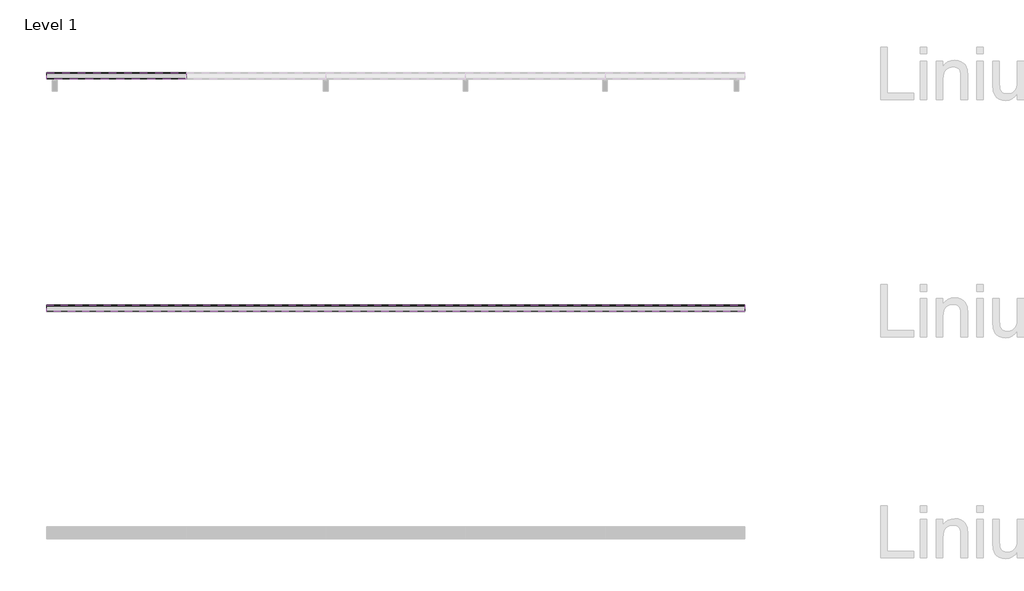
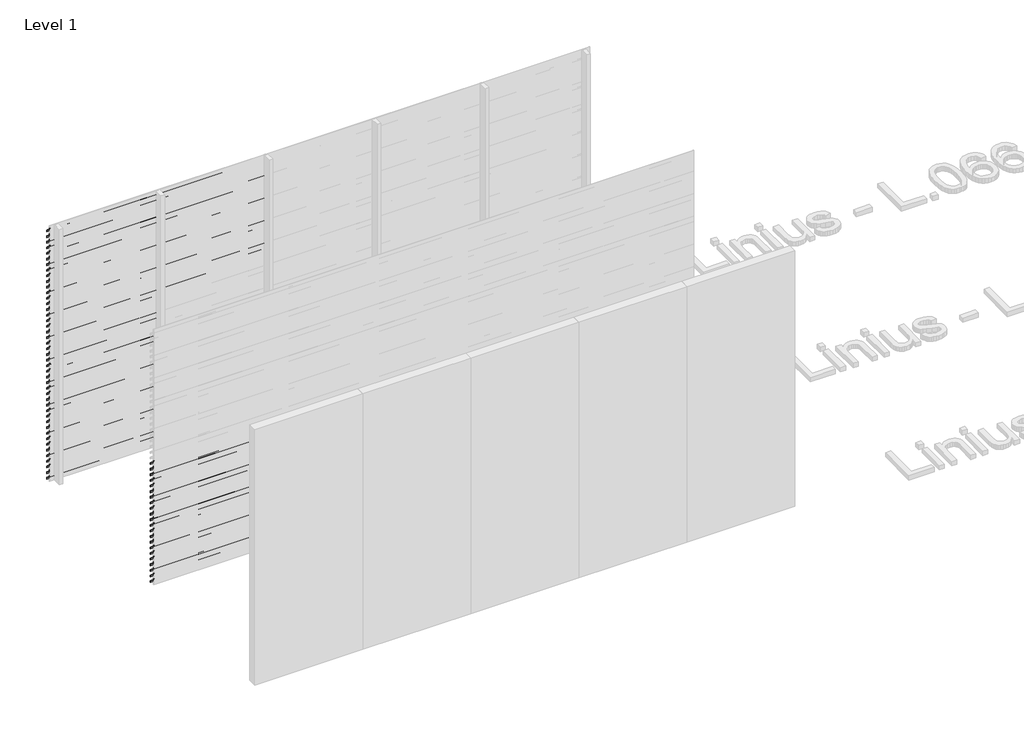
# One storey, part 37 of 540: 85 proxies.
"""IFC4 building model written with IfcOpenShell, lengths in millimetres."""

from ifc_helpers import new_model, si_unit, frame, origin, place, context, project, spatial, polyline, outline, extrude, element, save

model = new_model("IFC4")

# Units and contexts
model_context = context("Model", 3, world=origin())
ifc_project = project(units=[si_unit("LENGTHUNIT", "METRE", prefix="MILLI")], contexts=[model_context])

# Site, building, storey
site = spatial("IfcSite", under=ifc_project)
building = spatial("IfcBuilding", under=site)
storey = spatial("IfcBuildingStorey", under=building, Name="Level 1", Elevation=0.0)

# Proxies
placement = place(None, origin())
element("IfcBuildingElementProxy", 1, Name="Wall Sweeps", at=placement, inside=storey, context=model_context, shape_type="SweptSolid", body=[
    extrude(outline(polyline([(29081.0540136, 2913.5), (29081.0540136, 2893.5), (29079.8040136, 2894.2216933), (29079.8040136, 2912.7872415), (29026.0540136, 2950.3158044), (29026.0540136, 2970.0), (29027.3040136, 2970.0), (29027.3040136, 2951.0285629), (29081.0540136, 2913.5)])), frame((466.6208097, 0.0, 0.0), z_axis=(1.0, 0.0, 0.0), x_axis=(0.0, 1.0, 0.0)), (0.0, 0.0, 1.0), 1200.0000002),
])
element("IfcBuildingElementProxy", 2, Name="Wall Sweeps", at=placement, inside=storey, context=model_context, shape_type="SweptSolid", body=[
    extrude(outline(polyline([(29081.0540136, 2847.5), (29081.0540136, 2827.5), (29079.8040136, 2828.2216933), (29079.8040136, 2846.7872415), (29026.0540136, 2884.3158044), (29026.0540136, 2904.0), (29027.3040136, 2904.0), (29027.3040136, 2885.0285629), (29081.0540136, 2847.5)])), frame((466.6208097, 0.0, 0.0), z_axis=(1.0, 0.0, 0.0), x_axis=(0.0, 1.0, 0.0)), (0.0, 0.0, 1.0), 1200.0000002),
])
element("IfcBuildingElementProxy", 3, Name="Wall Sweeps", at=placement, inside=storey, context=model_context, shape_type="SweptSolid", body=[
    extrude(outline(polyline([(29081.0540136, 2781.5), (29081.0540136, 2761.5), (29079.8040136, 2762.2216933), (29079.8040136, 2780.7872415), (29026.0540136, 2818.3158044), (29026.0540136, 2838.0), (29027.3040136, 2838.0), (29027.3040136, 2819.0285629), (29081.0540136, 2781.5)])), frame((466.6208097, 0.0, 0.0), z_axis=(1.0, 0.0, 0.0), x_axis=(0.0, 1.0, 0.0)), (0.0, 0.0, 1.0), 1200.0000002),
])
element("IfcBuildingElementProxy", 4, Name="Wall Sweeps", at=placement, inside=storey, context=model_context, shape_type="SweptSolid", body=[
    extrude(outline(polyline([(29081.0540136, 2715.5), (29081.0540136, 2695.5), (29079.8040136, 2696.2216933), (29079.8040136, 2714.7872415), (29026.0540136, 2752.3158044), (29026.0540136, 2772.0), (29027.3040136, 2772.0), (29027.3040136, 2753.0285629), (29081.0540136, 2715.5)])), frame((466.6208097, 0.0, 0.0), z_axis=(1.0, 0.0, 0.0), x_axis=(0.0, 1.0, 0.0)), (0.0, 0.0, 1.0), 1200.0000002),
])
element("IfcBuildingElementProxy", 5, Name="Wall Sweeps", at=placement, inside=storey, context=model_context, shape_type="SweptSolid", body=[
    extrude(outline(polyline([(29081.0540136, 2649.5), (29081.0540136, 2629.5), (29079.8040136, 2630.2216933), (29079.8040136, 2648.7872415), (29026.0540136, 2686.3158044), (29026.0540136, 2706.0), (29027.3040136, 2706.0), (29027.3040136, 2687.0285629), (29081.0540136, 2649.5)])), frame((466.6208097, 0.0, 0.0), z_axis=(1.0, 0.0, 0.0), x_axis=(0.0, 1.0, 0.0)), (0.0, 0.0, 1.0), 1200.0000002),
])
element("IfcBuildingElementProxy", 6, Name="Wall Sweeps", at=placement, inside=storey, context=model_context, shape_type="SweptSolid", body=[
    extrude(outline(polyline([(29081.0540136, 2583.5), (29081.0540136, 2563.5), (29079.8040136, 2564.2216933), (29079.8040136, 2582.7872415), (29026.0540136, 2620.3158044), (29026.0540136, 2640.0), (29027.3040136, 2640.0), (29027.3040136, 2621.0285629), (29081.0540136, 2583.5)])), frame((466.6208097, 0.0, 0.0), z_axis=(1.0, 0.0, 0.0), x_axis=(0.0, 1.0, 0.0)), (0.0, 0.0, 1.0), 1200.0000002),
])
element("IfcBuildingElementProxy", 7, Name="Wall Sweeps", at=placement, inside=storey, context=model_context, shape_type="SweptSolid", body=[
    extrude(outline(polyline([(29081.0540136, 2517.5), (29081.0540136, 2497.5), (29079.8040136, 2498.2216933), (29079.8040136, 2516.7872415), (29026.0540136, 2554.3158044), (29026.0540136, 2574.0), (29027.3040136, 2574.0), (29027.3040136, 2555.0285629), (29081.0540136, 2517.5)])), frame((466.6208097, 0.0, 0.0), z_axis=(1.0, 0.0, 0.0), x_axis=(0.0, 1.0, 0.0)), (0.0, 0.0, 1.0), 1200.0000002),
])
element("IfcBuildingElementProxy", 8, Name="Wall Sweeps", at=placement, inside=storey, context=model_context, shape_type="SweptSolid", body=[
    extrude(outline(polyline([(29081.0540136, 2451.5), (29081.0540136, 2431.5), (29079.8040136, 2432.2216933), (29079.8040136, 2450.7872415), (29026.0540136, 2488.3158044), (29026.0540136, 2508.0), (29027.3040136, 2508.0), (29027.3040136, 2489.0285629), (29081.0540136, 2451.5)])), frame((466.6208097, 0.0, 0.0), z_axis=(1.0, 0.0, 0.0), x_axis=(0.0, 1.0, 0.0)), (0.0, 0.0, 1.0), 1200.0000002),
])
element("IfcBuildingElementProxy", 9, Name="Wall Sweeps", at=placement, inside=storey, context=model_context, shape_type="SweptSolid", body=[
    extrude(outline(polyline([(29081.0540136, 2385.5), (29081.0540136, 2365.5), (29079.8040136, 2366.2216933), (29079.8040136, 2384.7872415), (29026.0540136, 2422.3158044), (29026.0540136, 2442.0), (29027.3040136, 2442.0), (29027.3040136, 2423.0285629), (29081.0540136, 2385.5)])), frame((466.6208097, 0.0, 0.0), z_axis=(1.0, 0.0, 0.0), x_axis=(0.0, 1.0, 0.0)), (0.0, 0.0, 1.0), 1200.0000002),
])
element("IfcBuildingElementProxy", 10, Name="Wall Sweeps", at=placement, inside=storey, context=model_context, shape_type="SweptSolid", body=[
    extrude(outline(polyline([(29081.0540136, 2319.5), (29081.0540136, 2299.5), (29079.8040136, 2300.2216933), (29079.8040136, 2318.7872415), (29026.0540136, 2356.3158044), (29026.0540136, 2376.0), (29027.3040136, 2376.0), (29027.3040136, 2357.0285629), (29081.0540136, 2319.5)])), frame((466.6208097, 0.0, 0.0), z_axis=(1.0, 0.0, 0.0), x_axis=(0.0, 1.0, 0.0)), (0.0, 0.0, 1.0), 1200.0000002),
])
element("IfcBuildingElementProxy", 11, Name="Wall Sweeps", at=placement, inside=storey, context=model_context, shape_type="SweptSolid", body=[
    extrude(outline(polyline([(29081.0540136, 2253.5), (29081.0540136, 2233.5), (29079.8040136, 2234.2216933), (29079.8040136, 2252.7872415), (29026.0540136, 2290.3158044), (29026.0540136, 2310.0), (29027.3040136, 2310.0), (29027.3040136, 2291.0285629), (29081.0540136, 2253.5)])), frame((466.6208097, 0.0, 0.0), z_axis=(1.0, 0.0, 0.0), x_axis=(0.0, 1.0, 0.0)), (0.0, 0.0, 1.0), 1200.0000002),
])
element("IfcBuildingElementProxy", 12, Name="Wall Sweeps", at=placement, inside=storey, context=model_context, shape_type="SweptSolid", body=[
    extrude(outline(polyline([(29081.0540136, 2187.5), (29081.0540136, 2167.5), (29079.8040136, 2168.2216933), (29079.8040136, 2186.7872415), (29026.0540136, 2224.3158044), (29026.0540136, 2244.0), (29027.3040136, 2244.0), (29027.3040136, 2225.0285629), (29081.0540136, 2187.5)])), frame((466.6208097, 0.0, 0.0), z_axis=(1.0, 0.0, 0.0), x_axis=(0.0, 1.0, 0.0)), (0.0, 0.0, 1.0), 1200.0000002),
])
element("IfcBuildingElementProxy", 13, Name="Wall Sweeps", at=placement, inside=storey, context=model_context, shape_type="SweptSolid", body=[
    extrude(outline(polyline([(29081.0540136, 2121.5), (29081.0540136, 2101.5), (29079.8040136, 2102.2216933), (29079.8040136, 2120.7872415), (29026.0540136, 2158.3158044), (29026.0540136, 2178.0), (29027.3040136, 2178.0), (29027.3040136, 2159.0285629), (29081.0540136, 2121.5)])), frame((466.6208097, 0.0, 0.0), z_axis=(1.0, 0.0, 0.0), x_axis=(0.0, 1.0, 0.0)), (0.0, 0.0, 1.0), 1200.0000002),
])
element("IfcBuildingElementProxy", 14, Name="Wall Sweeps", at=placement, inside=storey, context=model_context, shape_type="SweptSolid", body=[
    extrude(outline(polyline([(29081.0540136, 2055.5), (29081.0540136, 2035.5), (29079.8040136, 2036.2216933), (29079.8040136, 2054.7872415), (29026.0540136, 2092.3158044), (29026.0540136, 2112.0), (29027.3040136, 2112.0), (29027.3040136, 2093.0285629), (29081.0540136, 2055.5)])), frame((466.6208097, 0.0, 0.0), z_axis=(1.0, 0.0, 0.0), x_axis=(0.0, 1.0, 0.0)), (0.0, 0.0, 1.0), 1200.0000002),
])
element("IfcBuildingElementProxy", 15, Name="Wall Sweeps", at=placement, inside=storey, context=model_context, shape_type="SweptSolid", body=[
    extrude(outline(polyline([(29081.0540136, 1989.5), (29081.0540136, 1969.5), (29079.8040136, 1970.2216933), (29079.8040136, 1988.7872415), (29026.0540136, 2026.3158044), (29026.0540136, 2046.0), (29027.3040136, 2046.0), (29027.3040136, 2027.0285629), (29081.0540136, 1989.5)])), frame((466.6208097, 0.0, 0.0), z_axis=(1.0, 0.0, 0.0), x_axis=(0.0, 1.0, 0.0)), (0.0, 0.0, 1.0), 1200.0000002),
])
element("IfcBuildingElementProxy", 16, Name="Wall Sweeps", at=placement, inside=storey, context=model_context, shape_type="SweptSolid", body=[
    extrude(outline(polyline([(29081.0540136, 1923.5), (29081.0540136, 1903.5), (29079.8040136, 1904.2216933), (29079.8040136, 1922.7872415), (29026.0540136, 1960.3158044), (29026.0540136, 1980.0), (29027.3040136, 1980.0), (29027.3040136, 1961.0285629), (29081.0540136, 1923.5)])), frame((466.6208097, 0.0, 0.0), z_axis=(1.0, 0.0, 0.0), x_axis=(0.0, 1.0, 0.0)), (0.0, 0.0, 1.0), 1200.0000002),
])
element("IfcBuildingElementProxy", 17, Name="Wall Sweeps", at=placement, inside=storey, context=model_context, shape_type="SweptSolid", body=[
    extrude(outline(polyline([(29081.0540136, 1857.5), (29081.0540136, 1837.5), (29079.8040136, 1838.2216933), (29079.8040136, 1856.7872415), (29026.0540136, 1894.3158044), (29026.0540136, 1914.0), (29027.3040136, 1914.0), (29027.3040136, 1895.0285629), (29081.0540136, 1857.5)])), frame((466.6208097, 0.0, 0.0), z_axis=(1.0, 0.0, 0.0), x_axis=(0.0, 1.0, 0.0)), (0.0, 0.0, 1.0), 1200.0000002),
])
element("IfcBuildingElementProxy", 18, Name="Wall Sweeps", at=placement, inside=storey, context=model_context, shape_type="SweptSolid", body=[
    extrude(outline(polyline([(29081.0540136, 1791.5), (29081.0540136, 1771.5), (29079.8040136, 1772.2216933), (29079.8040136, 1790.7872415), (29026.0540136, 1828.3158044), (29026.0540136, 1848.0), (29027.3040136, 1848.0), (29027.3040136, 1829.0285629), (29081.0540136, 1791.5)])), frame((466.6208097, 0.0, 0.0), z_axis=(1.0, 0.0, 0.0), x_axis=(0.0, 1.0, 0.0)), (0.0, 0.0, 1.0), 1200.0000002),
])
element("IfcBuildingElementProxy", 19, Name="Wall Sweeps", at=placement, inside=storey, context=model_context, shape_type="SweptSolid", body=[
    extrude(outline(polyline([(29081.0540136, 1725.5), (29081.0540136, 1705.5), (29079.8040136, 1706.2216933), (29079.8040136, 1724.7872415), (29026.0540136, 1762.3158044), (29026.0540136, 1782.0), (29027.3040136, 1782.0), (29027.3040136, 1763.0285629), (29081.0540136, 1725.5)])), frame((466.6208097, 0.0, 0.0), z_axis=(1.0, 0.0, 0.0), x_axis=(0.0, 1.0, 0.0)), (0.0, 0.0, 1.0), 1200.0000002),
])
element("IfcBuildingElementProxy", 20, Name="Wall Sweeps", at=placement, inside=storey, context=model_context, shape_type="SweptSolid", body=[
    extrude(outline(polyline([(29081.0540136, 1659.5), (29081.0540136, 1639.5), (29079.8040136, 1640.2216933), (29079.8040136, 1658.7872415), (29026.0540136, 1696.3158044), (29026.0540136, 1716.0), (29027.3040136, 1716.0), (29027.3040136, 1697.0285629), (29081.0540136, 1659.5)])), frame((466.6208097, 0.0, 0.0), z_axis=(1.0, 0.0, 0.0), x_axis=(0.0, 1.0, 0.0)), (0.0, 0.0, 1.0), 1200.0000002),
])
element("IfcBuildingElementProxy", 21, Name="Wall Sweeps", at=placement, inside=storey, context=model_context, shape_type="SweptSolid", body=[
    extrude(outline(polyline([(29081.0540136, 1593.5), (29081.0540136, 1573.5), (29079.8040136, 1574.2216933), (29079.8040136, 1592.7872415), (29026.0540136, 1630.3158044), (29026.0540136, 1650.0), (29027.3040136, 1650.0), (29027.3040136, 1631.0285629), (29081.0540136, 1593.5)])), frame((466.6208097, 0.0, 0.0), z_axis=(1.0, 0.0, 0.0), x_axis=(0.0, 1.0, 0.0)), (0.0, 0.0, 1.0), 1200.0000002),
])
element("IfcBuildingElementProxy", 22, Name="Wall Sweeps", at=placement, inside=storey, context=model_context, shape_type="SweptSolid", body=[
    extrude(outline(polyline([(29081.0540136, 1527.5), (29081.0540136, 1507.5), (29079.8040136, 1508.2216933), (29079.8040136, 1526.7872415), (29026.0540136, 1564.3158044), (29026.0540136, 1584.0), (29027.3040136, 1584.0), (29027.3040136, 1565.0285629), (29081.0540136, 1527.5)])), frame((466.6208097, 0.0, 0.0), z_axis=(1.0, 0.0, 0.0), x_axis=(0.0, 1.0, 0.0)), (0.0, 0.0, 1.0), 1200.0000002),
])
element("IfcBuildingElementProxy", 23, Name="Wall Sweeps", at=placement, inside=storey, context=model_context, shape_type="SweptSolid", body=[
    extrude(outline(polyline([(29081.0540136, 1461.5), (29081.0540136, 1441.5), (29079.8040136, 1442.2216933), (29079.8040136, 1460.7872415), (29026.0540136, 1498.3158044), (29026.0540136, 1518.0), (29027.3040136, 1518.0), (29027.3040136, 1499.0285629), (29081.0540136, 1461.5)])), frame((466.6208097, 0.0, 0.0), z_axis=(1.0, 0.0, 0.0), x_axis=(0.0, 1.0, 0.0)), (0.0, 0.0, 1.0), 1200.0000002),
])
element("IfcBuildingElementProxy", 24, Name="Wall Sweeps", at=placement, inside=storey, context=model_context, shape_type="SweptSolid", body=[
    extrude(outline(polyline([(29081.0540136, 1395.5), (29081.0540136, 1375.5), (29079.8040136, 1376.2216933), (29079.8040136, 1394.7872415), (29026.0540136, 1432.3158044), (29026.0540136, 1452.0), (29027.3040136, 1452.0), (29027.3040136, 1433.0285629), (29081.0540136, 1395.5)])), frame((466.6208097, 0.0, 0.0), z_axis=(1.0, 0.0, 0.0), x_axis=(0.0, 1.0, 0.0)), (0.0, 0.0, 1.0), 1200.0000002),
])
element("IfcBuildingElementProxy", 25, Name="Wall Sweeps", at=placement, inside=storey, context=model_context, shape_type="SweptSolid", body=[
    extrude(outline(polyline([(29081.0540136, 1329.5), (29081.0540136, 1309.5), (29079.8040136, 1310.2216933), (29079.8040136, 1328.7872415), (29026.0540136, 1366.3158044), (29026.0540136, 1386.0), (29027.3040136, 1386.0), (29027.3040136, 1367.0285629), (29081.0540136, 1329.5)])), frame((466.6208097, 0.0, 0.0), z_axis=(1.0, 0.0, 0.0), x_axis=(0.0, 1.0, 0.0)), (0.0, 0.0, 1.0), 1200.0000002),
])
element("IfcBuildingElementProxy", 26, Name="Wall Sweeps", at=placement, inside=storey, context=model_context, shape_type="SweptSolid", body=[
    extrude(outline(polyline([(29081.0540136, 1263.5), (29081.0540136, 1243.5), (29079.8040136, 1244.2216933), (29079.8040136, 1262.7872415), (29026.0540136, 1300.3158044), (29026.0540136, 1320.0), (29027.3040136, 1320.0), (29027.3040136, 1301.0285629), (29081.0540136, 1263.5)])), frame((466.6208097, 0.0, 0.0), z_axis=(1.0, 0.0, 0.0), x_axis=(0.0, 1.0, 0.0)), (0.0, 0.0, 1.0), 1200.0000002),
])
element("IfcBuildingElementProxy", 27, Name="Wall Sweeps", at=placement, inside=storey, context=model_context, shape_type="SweptSolid", body=[
    extrude(outline(polyline([(29081.0540136, 1197.5), (29081.0540136, 1177.5), (29079.8040136, 1178.2216933), (29079.8040136, 1196.7872415), (29026.0540136, 1234.3158044), (29026.0540136, 1254.0), (29027.3040136, 1254.0), (29027.3040136, 1235.0285629), (29081.0540136, 1197.5)])), frame((466.6208097, 0.0, 0.0), z_axis=(1.0, 0.0, 0.0), x_axis=(0.0, 1.0, 0.0)), (0.0, 0.0, 1.0), 1200.0000002),
])
element("IfcBuildingElementProxy", 28, Name="Wall Sweeps", at=placement, inside=storey, context=model_context, shape_type="SweptSolid", body=[
    extrude(outline(polyline([(29081.0540136, 1131.5), (29081.0540136, 1111.5), (29079.8040136, 1112.2216933), (29079.8040136, 1130.7872415), (29026.0540136, 1168.3158044), (29026.0540136, 1188.0), (29027.3040136, 1188.0), (29027.3040136, 1169.0285629), (29081.0540136, 1131.5)])), frame((466.6208097, 0.0, 0.0), z_axis=(1.0, 0.0, 0.0), x_axis=(0.0, 1.0, 0.0)), (0.0, 0.0, 1.0), 1200.0000002),
])
element("IfcBuildingElementProxy", 29, Name="Wall Sweeps", at=placement, inside=storey, context=model_context, shape_type="SweptSolid", body=[
    extrude(outline(polyline([(29081.0540136, 1065.5), (29081.0540136, 1045.5), (29079.8040136, 1046.2216933), (29079.8040136, 1064.7872415), (29026.0540136, 1102.3158044), (29026.0540136, 1122.0), (29027.3040136, 1122.0), (29027.3040136, 1103.0285629), (29081.0540136, 1065.5)])), frame((466.6208097, 0.0, 0.0), z_axis=(1.0, 0.0, 0.0), x_axis=(0.0, 1.0, 0.0)), (0.0, 0.0, 1.0), 1200.0000002),
])
element("IfcBuildingElementProxy", 30, Name="Wall Sweeps", at=placement, inside=storey, context=model_context, shape_type="SweptSolid", body=[
    extrude(outline(polyline([(29081.0540136, 999.5), (29081.0540136, 979.5), (29079.8040136, 980.2216933), (29079.8040136, 998.7872415), (29026.0540136, 1036.3158044), (29026.0540136, 1056.0), (29027.3040136, 1056.0), (29027.3040136, 1037.0285629), (29081.0540136, 999.5)])), frame((466.6208097, 0.0, 0.0), z_axis=(1.0, 0.0, 0.0), x_axis=(0.0, 1.0, 0.0)), (0.0, 0.0, 1.0), 1200.0000002),
])
element("IfcBuildingElementProxy", 31, Name="Wall Sweeps", at=placement, inside=storey, context=model_context, shape_type="SweptSolid", body=[
    extrude(outline(polyline([(29081.0540136, 933.5), (29081.0540136, 913.5), (29079.8040136, 914.2216933), (29079.8040136, 932.7872415), (29026.0540136, 970.3158044), (29026.0540136, 990.0), (29027.3040136, 990.0), (29027.3040136, 971.0285629), (29081.0540136, 933.5)])), frame((466.6208097, 0.0, 0.0), z_axis=(1.0, 0.0, 0.0), x_axis=(0.0, 1.0, 0.0)), (0.0, 0.0, 1.0), 1200.0000002),
])
element("IfcBuildingElementProxy", 32, Name="Wall Sweeps", at=placement, inside=storey, context=model_context, shape_type="SweptSolid", body=[
    extrude(outline(polyline([(29081.0540136, 867.5), (29081.0540136, 847.5), (29079.8040136, 848.2216933), (29079.8040136, 866.7872415), (29026.0540136, 904.3158044), (29026.0540136, 924.0), (29027.3040136, 924.0), (29027.3040136, 905.0285629), (29081.0540136, 867.5)])), frame((466.6208097, 0.0, 0.0), z_axis=(1.0, 0.0, 0.0), x_axis=(0.0, 1.0, 0.0)), (0.0, 0.0, 1.0), 1200.0000002),
])
element("IfcBuildingElementProxy", 33, Name="Wall Sweeps", at=placement, inside=storey, context=model_context, shape_type="SweptSolid", body=[
    extrude(outline(polyline([(29081.0540136, 801.5), (29081.0540136, 781.5), (29079.8040136, 782.2216933), (29079.8040136, 800.7872415), (29026.0540136, 838.3158044), (29026.0540136, 858.0), (29027.3040136, 858.0), (29027.3040136, 839.0285629), (29081.0540136, 801.5)])), frame((466.6208097, 0.0, 0.0), z_axis=(1.0, 0.0, 0.0), x_axis=(0.0, 1.0, 0.0)), (0.0, 0.0, 1.0), 1200.0000002),
])
element("IfcBuildingElementProxy", 34, Name="Wall Sweeps", at=placement, inside=storey, context=model_context, shape_type="SweptSolid", body=[
    extrude(outline(polyline([(29081.0540136, 735.5), (29081.0540136, 715.5), (29079.8040136, 716.2216933), (29079.8040136, 734.7872415), (29026.0540136, 772.3158044), (29026.0540136, 792.0), (29027.3040136, 792.0), (29027.3040136, 773.0285629), (29081.0540136, 735.5)])), frame((466.6208097, 0.0, 0.0), z_axis=(1.0, 0.0, 0.0), x_axis=(0.0, 1.0, 0.0)), (0.0, 0.0, 1.0), 1200.0000002),
])
element("IfcBuildingElementProxy", 35, Name="Wall Sweeps", at=placement, inside=storey, context=model_context, shape_type="SweptSolid", body=[
    extrude(outline(polyline([(29081.0540136, 669.5), (29081.0540136, 649.5), (29079.8040136, 650.2216933), (29079.8040136, 668.7872415), (29026.0540136, 706.3158044), (29026.0540136, 726.0), (29027.3040136, 726.0), (29027.3040136, 707.0285629), (29081.0540136, 669.5)])), frame((466.6208097, 0.0, 0.0), z_axis=(1.0, 0.0, 0.0), x_axis=(0.0, 1.0, 0.0)), (0.0, 0.0, 1.0), 1200.0000002),
])
element("IfcBuildingElementProxy", 36, Name="Wall Sweeps", at=placement, inside=storey, context=model_context, shape_type="SweptSolid", body=[
    extrude(outline(polyline([(29081.0540136, 603.5), (29081.0540136, 583.5), (29079.8040136, 584.2216933), (29079.8040136, 602.7872415), (29026.0540136, 640.3158044), (29026.0540136, 660.0), (29027.3040136, 660.0), (29027.3040136, 641.0285629), (29081.0540136, 603.5)])), frame((466.6208097, 0.0, 0.0), z_axis=(1.0, 0.0, 0.0), x_axis=(0.0, 1.0, 0.0)), (0.0, 0.0, 1.0), 1200.0000002),
])
element("IfcBuildingElementProxy", 37, Name="Wall Sweeps", at=placement, inside=storey, context=model_context, shape_type="SweptSolid", body=[
    extrude(outline(polyline([(29081.0540136, 537.5), (29081.0540136, 517.5), (29079.8040136, 518.2216933), (29079.8040136, 536.7872415), (29026.0540136, 574.3158044), (29026.0540136, 594.0), (29027.3040136, 594.0), (29027.3040136, 575.0285629), (29081.0540136, 537.5)])), frame((466.6208097, 0.0, 0.0), z_axis=(1.0, 0.0, 0.0), x_axis=(0.0, 1.0, 0.0)), (0.0, 0.0, 1.0), 1200.0000002),
])
element("IfcBuildingElementProxy", 38, Name="Wall Sweeps", at=placement, inside=storey, context=model_context, shape_type="SweptSolid", body=[
    extrude(outline(polyline([(29081.0540136, 471.5), (29081.0540136, 451.5), (29079.8040136, 452.2216933), (29079.8040136, 470.7872415), (29026.0540136, 508.3158044), (29026.0540136, 528.0), (29027.3040136, 528.0), (29027.3040136, 509.0285629), (29081.0540136, 471.5)])), frame((466.6208097, 0.0, 0.0), z_axis=(1.0, 0.0, 0.0), x_axis=(0.0, 1.0, 0.0)), (0.0, 0.0, 1.0), 1200.0000002),
])
element("IfcBuildingElementProxy", 39, Name="Wall Sweeps", at=placement, inside=storey, context=model_context, shape_type="SweptSolid", body=[
    extrude(outline(polyline([(29081.0540136, 405.5), (29081.0540136, 385.5), (29079.8040136, 386.2216933), (29079.8040136, 404.7872415), (29026.0540136, 442.3158044), (29026.0540136, 462.0), (29027.3040136, 462.0), (29027.3040136, 443.0285629), (29081.0540136, 405.5)])), frame((466.6208097, 0.0, 0.0), z_axis=(1.0, 0.0, 0.0), x_axis=(0.0, 1.0, 0.0)), (0.0, 0.0, 1.0), 1200.0000002),
])
element("IfcBuildingElementProxy", 40, Name="Wall Sweeps", at=placement, inside=storey, context=model_context, shape_type="SweptSolid", body=[
    extrude(outline(polyline([(29081.0540136, 339.5), (29081.0540136, 319.5), (29079.8040136, 320.2216933), (29079.8040136, 338.7872415), (29026.0540136, 376.3158044), (29026.0540136, 396.0), (29027.3040136, 396.0), (29027.3040136, 377.0285629), (29081.0540136, 339.5)])), frame((466.6208097, 0.0, 0.0), z_axis=(1.0, 0.0, 0.0), x_axis=(0.0, 1.0, 0.0)), (0.0, 0.0, 1.0), 1200.0000002),
])
element("IfcBuildingElementProxy", 41, Name="Wall Sweeps", at=placement, inside=storey, context=model_context, shape_type="SweptSolid", body=[
    extrude(outline(polyline([(29081.0540136, 273.5), (29081.0540136, 253.5), (29079.8040136, 254.2216933), (29079.8040136, 272.7872415), (29026.0540136, 310.3158044), (29026.0540136, 330.0), (29027.3040136, 330.0), (29027.3040136, 311.0285629), (29081.0540136, 273.5)])), frame((466.6208097, 0.0, 0.0), z_axis=(1.0, 0.0, 0.0), x_axis=(0.0, 1.0, 0.0)), (0.0, 0.0, 1.0), 1200.0000002),
])
element("IfcBuildingElementProxy", 42, Name="Wall Sweeps", at=placement, inside=storey, context=model_context, shape_type="SweptSolid", body=[
    extrude(outline(polyline([(29081.0540136, 207.5), (29081.0540136, 187.5), (29079.8040136, 188.2216933), (29079.8040136, 206.7872415), (29026.0540136, 244.3158044), (29026.0540136, 264.0), (29027.3040136, 264.0), (29027.3040136, 245.0285629), (29081.0540136, 207.5)])), frame((466.6208097, 0.0, 0.0), z_axis=(1.0, 0.0, 0.0), x_axis=(0.0, 1.0, 0.0)), (0.0, 0.0, 1.0), 1200.0000002),
])
element("IfcBuildingElementProxy", 43, Name="Wall Sweeps", at=placement, inside=storey, context=model_context, shape_type="SweptSolid", body=[
    extrude(outline(polyline([(29081.0540136, 141.5), (29081.0540136, 121.5), (29079.8040136, 122.2216933), (29079.8040136, 140.7872415), (29026.0540136, 178.3158044), (29026.0540136, 198.0), (29027.3040136, 198.0), (29027.3040136, 179.0285629), (29081.0540136, 141.5)])), frame((466.6208097, 0.0, 0.0), z_axis=(1.0, 0.0, 0.0), x_axis=(0.0, 1.0, 0.0)), (0.0, 0.0, 1.0), 1200.0000002),
])
element("IfcBuildingElementProxy", 44, Name="Wall Sweeps", at=placement, inside=storey, context=model_context, shape_type="SweptSolid", body=[
    extrude(outline(polyline([(29081.0540136, 75.5), (29081.0540136, 55.5), (29079.8040136, 56.2216933), (29079.8040136, 74.7872415), (29026.0540136, 112.3158044), (29026.0540136, 132.0), (29027.3040136, 132.0), (29027.3040136, 113.0285629), (29081.0540136, 75.5)])), frame((466.6208097, 0.0, 0.0), z_axis=(1.0, 0.0, 0.0), x_axis=(0.0, 1.0, 0.0)), (0.0, 0.0, 1.0), 1200.0000002),
])
element("IfcBuildingElementProxy", 45, Name="Wall Sweeps", at=placement, inside=storey, context=model_context, shape_type="SweptSolid", body=[
    extrude(outline(polyline([(29081.0540136, 9.5), (29081.0540136, -10.5), (29079.8040136, -9.7783067), (29079.8040136, 8.7872415), (29026.0540136, 46.3158044), (29026.0540136, 66.0), (29027.3040136, 66.0), (29027.3040136, 47.0285629), (29081.0540136, 9.5)])), frame((466.6208097, 0.0, 0.0), z_axis=(1.0, 0.0, 0.0), x_axis=(0.0, 1.0, 0.0)), (0.0, 0.0, 1.0), 1200.0000002),
])
element("IfcBuildingElementProxy", 46, Name="Wall Sweeps", at=placement, inside=storey, context=model_context, shape_type="SweptSolid", body=[
    extrude(outline(polyline([(29081.0540136, 2913.5), (29081.0540136, 2893.5), (29079.8040136, 2894.2216933), (29079.8040136, 2912.7872415), (29026.0540136, 2950.3158044), (29026.0540136, 2970.0), (29027.3040136, 2970.0), (29027.3040136, 2951.0285629), (29081.0540136, 2913.5)])), frame((1666.6208099, 0.0, 0.0), z_axis=(1.0, 0.0, 0.0), x_axis=(0.0, 1.0, 0.0)), (0.0, 0.0, 1.0), 1199.9999999),
])
element("IfcBuildingElementProxy", 47, Name="Wall Sweeps", at=placement, inside=storey, context=model_context, shape_type="SweptSolid", body=[
    extrude(outline(polyline([(29081.0540136, 2847.5), (29081.0540136, 2827.5), (29079.8040136, 2828.2216933), (29079.8040136, 2846.7872415), (29026.0540136, 2884.3158044), (29026.0540136, 2904.0), (29027.3040136, 2904.0), (29027.3040136, 2885.0285629), (29081.0540136, 2847.5)])), frame((1666.6208099, 0.0, 0.0), z_axis=(1.0, 0.0, 0.0), x_axis=(0.0, 1.0, 0.0)), (0.0, 0.0, 1.0), 1199.9999999),
])
element("IfcBuildingElementProxy", 48, Name="Wall Sweeps", at=placement, inside=storey, context=model_context, shape_type="SweptSolid", body=[
    extrude(outline(polyline([(29081.0540136, 2781.5), (29081.0540136, 2761.5), (29079.8040136, 2762.2216933), (29079.8040136, 2780.7872415), (29026.0540136, 2818.3158044), (29026.0540136, 2838.0), (29027.3040136, 2838.0), (29027.3040136, 2819.0285629), (29081.0540136, 2781.5)])), frame((1666.6208099, 0.0, 0.0), z_axis=(1.0, 0.0, 0.0), x_axis=(0.0, 1.0, 0.0)), (0.0, 0.0, 1.0), 1199.9999999),
])
element("IfcBuildingElementProxy", 49, Name="Wall Sweeps", at=placement, inside=storey, context=model_context, shape_type="SweptSolid", body=[
    extrude(outline(polyline([(29081.0540136, 2715.5), (29081.0540136, 2695.5), (29079.8040136, 2696.2216933), (29079.8040136, 2714.7872415), (29026.0540136, 2752.3158044), (29026.0540136, 2772.0), (29027.3040136, 2772.0), (29027.3040136, 2753.0285629), (29081.0540136, 2715.5)])), frame((1666.6208099, 0.0, 0.0), z_axis=(1.0, 0.0, 0.0), x_axis=(0.0, 1.0, 0.0)), (0.0, 0.0, 1.0), 1199.9999999),
])
element("IfcBuildingElementProxy", 50, Name="Wall Sweeps", at=placement, inside=storey, context=model_context, shape_type="SweptSolid", body=[
    extrude(outline(polyline([(29081.0540136, 2649.5), (29081.0540136, 2629.5), (29079.8040136, 2630.2216933), (29079.8040136, 2648.7872415), (29026.0540136, 2686.3158044), (29026.0540136, 2706.0), (29027.3040136, 2706.0), (29027.3040136, 2687.0285629), (29081.0540136, 2649.5)])), frame((1666.6208099, 0.0, 0.0), z_axis=(1.0, 0.0, 0.0), x_axis=(0.0, 1.0, 0.0)), (0.0, 0.0, 1.0), 1199.9999999),
])
element("IfcBuildingElementProxy", 51, Name="Wall Sweeps", at=placement, inside=storey, context=model_context, shape_type="SweptSolid", body=[
    extrude(outline(polyline([(29081.0540136, 2583.5), (29081.0540136, 2563.5), (29079.8040136, 2564.2216933), (29079.8040136, 2582.7872415), (29026.0540136, 2620.3158044), (29026.0540136, 2640.0), (29027.3040136, 2640.0), (29027.3040136, 2621.0285629), (29081.0540136, 2583.5)])), frame((1666.6208099, 0.0, 0.0), z_axis=(1.0, 0.0, 0.0), x_axis=(0.0, 1.0, 0.0)), (0.0, 0.0, 1.0), 1199.9999999),
])
element("IfcBuildingElementProxy", 52, Name="Wall Sweeps", at=placement, inside=storey, context=model_context, shape_type="SweptSolid", body=[
    extrude(outline(polyline([(29081.0540136, 2517.5), (29081.0540136, 2497.5), (29079.8040136, 2498.2216933), (29079.8040136, 2516.7872415), (29026.0540136, 2554.3158044), (29026.0540136, 2574.0), (29027.3040136, 2574.0), (29027.3040136, 2555.0285629), (29081.0540136, 2517.5)])), frame((1666.6208099, 0.0, 0.0), z_axis=(1.0, 0.0, 0.0), x_axis=(0.0, 1.0, 0.0)), (0.0, 0.0, 1.0), 1199.9999999),
])
element("IfcBuildingElementProxy", 53, Name="Wall Sweeps", at=placement, inside=storey, context=model_context, shape_type="SweptSolid", body=[
    extrude(outline(polyline([(29081.0540136, 2451.5), (29081.0540136, 2431.5), (29079.8040136, 2432.2216933), (29079.8040136, 2450.7872415), (29026.0540136, 2488.3158044), (29026.0540136, 2508.0), (29027.3040136, 2508.0), (29027.3040136, 2489.0285629), (29081.0540136, 2451.5)])), frame((1666.6208099, 0.0, 0.0), z_axis=(1.0, 0.0, 0.0), x_axis=(0.0, 1.0, 0.0)), (0.0, 0.0, 1.0), 1199.9999999),
])
element("IfcBuildingElementProxy", 54, Name="Wall Sweeps", at=placement, inside=storey, context=model_context, shape_type="SweptSolid", body=[
    extrude(outline(polyline([(29081.0540136, 2385.5), (29081.0540136, 2365.5), (29079.8040136, 2366.2216933), (29079.8040136, 2384.7872415), (29026.0540136, 2422.3158044), (29026.0540136, 2442.0), (29027.3040136, 2442.0), (29027.3040136, 2423.0285629), (29081.0540136, 2385.5)])), frame((1666.6208099, 0.0, 0.0), z_axis=(1.0, 0.0, 0.0), x_axis=(0.0, 1.0, 0.0)), (0.0, 0.0, 1.0), 1199.9999999),
])
element("IfcBuildingElementProxy", 55, Name="Wall Sweeps", at=placement, inside=storey, context=model_context, shape_type="SweptSolid", body=[
    extrude(outline(polyline([(29081.0540136, 2319.5), (29081.0540136, 2299.5), (29079.8040136, 2300.2216933), (29079.8040136, 2318.7872415), (29026.0540136, 2356.3158044), (29026.0540136, 2376.0), (29027.3040136, 2376.0), (29027.3040136, 2357.0285629), (29081.0540136, 2319.5)])), frame((1666.6208099, 0.0, 0.0), z_axis=(1.0, 0.0, 0.0), x_axis=(0.0, 1.0, 0.0)), (0.0, 0.0, 1.0), 1199.9999999),
])
element("IfcBuildingElementProxy", 56, Name="Wall Sweeps", at=placement, inside=storey, context=model_context, shape_type="SweptSolid", body=[
    extrude(outline(polyline([(29081.0540136, 2253.5), (29081.0540136, 2233.5), (29079.8040136, 2234.2216933), (29079.8040136, 2252.7872415), (29026.0540136, 2290.3158044), (29026.0540136, 2310.0), (29027.3040136, 2310.0), (29027.3040136, 2291.0285629), (29081.0540136, 2253.5)])), frame((1666.6208099, 0.0, 0.0), z_axis=(1.0, 0.0, 0.0), x_axis=(0.0, 1.0, 0.0)), (0.0, 0.0, 1.0), 1199.9999999),
])
element("IfcBuildingElementProxy", 57, Name="Wall Sweeps", at=placement, inside=storey, context=model_context, shape_type="SweptSolid", body=[
    extrude(outline(polyline([(29081.0540136, 2187.5), (29081.0540136, 2167.5), (29079.8040136, 2168.2216933), (29079.8040136, 2186.7872415), (29026.0540136, 2224.3158044), (29026.0540136, 2244.0), (29027.3040136, 2244.0), (29027.3040136, 2225.0285629), (29081.0540136, 2187.5)])), frame((1666.6208099, 0.0, 0.0), z_axis=(1.0, 0.0, 0.0), x_axis=(0.0, 1.0, 0.0)), (0.0, 0.0, 1.0), 1199.9999999),
])
element("IfcBuildingElementProxy", 58, Name="Wall Sweeps", at=placement, inside=storey, context=model_context, shape_type="SweptSolid", body=[
    extrude(outline(polyline([(29081.0540136, 2121.5), (29081.0540136, 2101.5), (29079.8040136, 2102.2216933), (29079.8040136, 2120.7872415), (29026.0540136, 2158.3158044), (29026.0540136, 2178.0), (29027.3040136, 2178.0), (29027.3040136, 2159.0285629), (29081.0540136, 2121.5)])), frame((1666.6208099, 0.0, 0.0), z_axis=(1.0, 0.0, 0.0), x_axis=(0.0, 1.0, 0.0)), (0.0, 0.0, 1.0), 1199.9999999),
])
element("IfcBuildingElementProxy", 59, Name="Wall Sweeps", at=placement, inside=storey, context=model_context, shape_type="SweptSolid", body=[
    extrude(outline(polyline([(29081.0540136, 2055.5), (29081.0540136, 2035.5), (29079.8040136, 2036.2216933), (29079.8040136, 2054.7872415), (29026.0540136, 2092.3158044), (29026.0540136, 2112.0), (29027.3040136, 2112.0), (29027.3040136, 2093.0285629), (29081.0540136, 2055.5)])), frame((1666.6208099, 0.0, 0.0), z_axis=(1.0, 0.0, 0.0), x_axis=(0.0, 1.0, 0.0)), (0.0, 0.0, 1.0), 1199.9999999),
])
element("IfcBuildingElementProxy", 60, Name="Wall Sweeps", at=placement, inside=storey, context=model_context, shape_type="SweptSolid", body=[
    extrude(outline(polyline([(29081.0540136, 1989.5), (29081.0540136, 1969.5), (29079.8040136, 1970.2216933), (29079.8040136, 1988.7872415), (29026.0540136, 2026.3158044), (29026.0540136, 2046.0), (29027.3040136, 2046.0), (29027.3040136, 2027.0285629), (29081.0540136, 1989.5)])), frame((1666.6208099, 0.0, 0.0), z_axis=(1.0, 0.0, 0.0), x_axis=(0.0, 1.0, 0.0)), (0.0, 0.0, 1.0), 1199.9999999),
])
element("IfcBuildingElementProxy", 61, Name="Wall Sweeps", at=placement, inside=storey, context=model_context, shape_type="SweptSolid", body=[
    extrude(outline(polyline([(29081.0540136, 1923.5), (29081.0540136, 1903.5), (29079.8040136, 1904.2216933), (29079.8040136, 1922.7872415), (29026.0540136, 1960.3158044), (29026.0540136, 1980.0), (29027.3040136, 1980.0), (29027.3040136, 1961.0285629), (29081.0540136, 1923.5)])), frame((1666.6208099, 0.0, 0.0), z_axis=(1.0, 0.0, 0.0), x_axis=(0.0, 1.0, 0.0)), (0.0, 0.0, 1.0), 1199.9999999),
])
element("IfcBuildingElementProxy", 62, Name="Wall Sweeps", at=placement, inside=storey, context=model_context, shape_type="SweptSolid", body=[
    extrude(outline(polyline([(29081.0540136, 1857.5), (29081.0540136, 1837.5), (29079.8040136, 1838.2216933), (29079.8040136, 1856.7872415), (29026.0540136, 1894.3158044), (29026.0540136, 1914.0), (29027.3040136, 1914.0), (29027.3040136, 1895.0285629), (29081.0540136, 1857.5)])), frame((1666.6208099, 0.0, 0.0), z_axis=(1.0, 0.0, 0.0), x_axis=(0.0, 1.0, 0.0)), (0.0, 0.0, 1.0), 1199.9999999),
])
element("IfcBuildingElementProxy", 63, Name="Wall Sweeps", at=placement, inside=storey, context=model_context, shape_type="SweptSolid", body=[
    extrude(outline(polyline([(29081.0540136, 1791.5), (29081.0540136, 1771.5), (29079.8040136, 1772.2216933), (29079.8040136, 1790.7872415), (29026.0540136, 1828.3158044), (29026.0540136, 1848.0), (29027.3040136, 1848.0), (29027.3040136, 1829.0285629), (29081.0540136, 1791.5)])), frame((1666.6208099, 0.0, 0.0), z_axis=(1.0, 0.0, 0.0), x_axis=(0.0, 1.0, 0.0)), (0.0, 0.0, 1.0), 1199.9999999),
])
element("IfcBuildingElementProxy", 64, Name="Wall Sweeps", at=placement, inside=storey, context=model_context, shape_type="SweptSolid", body=[
    extrude(outline(polyline([(27081.0540136, 1395.5), (27081.0540136, 1375.5), (27079.8040136, 1376.2216933), (27079.8040136, 1394.7872415), (27026.0540136, 1432.3158044), (27026.0540136, 1452.0), (27027.3040136, 1452.0), (27027.3040136, 1433.0285629), (27081.0540136, 1395.5)])), frame((466.6208097, 0.0, 0.0), z_axis=(1.0, 0.0, 0.0), x_axis=(0.0, 1.0, 0.0)), (0.0, 0.0, 1.0), 6000.0),
])
element("IfcBuildingElementProxy", 65, Name="Wall Sweeps", at=placement, inside=storey, context=model_context, shape_type="SweptSolid", body=[
    extrude(outline(polyline([(27081.0540136, 1329.5), (27081.0540136, 1309.5), (27079.8040136, 1310.2216933), (27079.8040136, 1328.7872415), (27026.0540136, 1366.3158044), (27026.0540136, 1386.0), (27027.3040136, 1386.0), (27027.3040136, 1367.0285629), (27081.0540136, 1329.5)])), frame((466.6208097, 0.0, 0.0), z_axis=(1.0, 0.0, 0.0), x_axis=(0.0, 1.0, 0.0)), (0.0, 0.0, 1.0), 6000.0),
])
element("IfcBuildingElementProxy", 66, Name="Wall Sweeps", at=placement, inside=storey, context=model_context, shape_type="SweptSolid", body=[
    extrude(outline(polyline([(27081.0540136, 1263.5), (27081.0540136, 1243.5), (27079.8040136, 1244.2216933), (27079.8040136, 1262.7872415), (27026.0540136, 1300.3158044), (27026.0540136, 1320.0), (27027.3040136, 1320.0), (27027.3040136, 1301.0285629), (27081.0540136, 1263.5)])), frame((466.6208097, 0.0, 0.0), z_axis=(1.0, 0.0, 0.0), x_axis=(0.0, 1.0, 0.0)), (0.0, 0.0, 1.0), 6000.0),
])
element("IfcBuildingElementProxy", 67, Name="Wall Sweeps", at=placement, inside=storey, context=model_context, shape_type="SweptSolid", body=[
    extrude(outline(polyline([(27081.0540136, 1197.5), (27081.0540136, 1177.5), (27079.8040136, 1178.2216933), (27079.8040136, 1196.7872415), (27026.0540136, 1234.3158044), (27026.0540136, 1254.0), (27027.3040136, 1254.0), (27027.3040136, 1235.0285629), (27081.0540136, 1197.5)])), frame((466.6208097, 0.0, 0.0), z_axis=(1.0, 0.0, 0.0), x_axis=(0.0, 1.0, 0.0)), (0.0, 0.0, 1.0), 6000.0),
])
element("IfcBuildingElementProxy", 68, Name="Wall Sweeps", at=placement, inside=storey, context=model_context, shape_type="SweptSolid", body=[
    extrude(outline(polyline([(27081.0540136, 1131.5), (27081.0540136, 1111.5), (27079.8040136, 1112.2216933), (27079.8040136, 1130.7872415), (27026.0540136, 1168.3158044), (27026.0540136, 1188.0), (27027.3040136, 1188.0), (27027.3040136, 1169.0285629), (27081.0540136, 1131.5)])), frame((466.6208097, 0.0, 0.0), z_axis=(1.0, 0.0, 0.0), x_axis=(0.0, 1.0, 0.0)), (0.0, 0.0, 1.0), 6000.0),
])
element("IfcBuildingElementProxy", 69, Name="Wall Sweeps", at=placement, inside=storey, context=model_context, shape_type="SweptSolid", body=[
    extrude(outline(polyline([(27081.0540136, 1065.5), (27081.0540136, 1045.5), (27079.8040136, 1046.2216933), (27079.8040136, 1064.7872415), (27026.0540136, 1102.3158044), (27026.0540136, 1122.0), (27027.3040136, 1122.0), (27027.3040136, 1103.0285629), (27081.0540136, 1065.5)])), frame((466.6208097, 0.0, 0.0), z_axis=(1.0, 0.0, 0.0), x_axis=(0.0, 1.0, 0.0)), (0.0, 0.0, 1.0), 6000.0),
])
element("IfcBuildingElementProxy", 70, Name="Wall Sweeps", at=placement, inside=storey, context=model_context, shape_type="SweptSolid", body=[
    extrude(outline(polyline([(27081.0540136, 999.5), (27081.0540136, 979.5), (27079.8040136, 980.2216933), (27079.8040136, 998.7872415), (27026.0540136, 1036.3158044), (27026.0540136, 1056.0), (27027.3040136, 1056.0), (27027.3040136, 1037.0285629), (27081.0540136, 999.5)])), frame((466.6208097, 0.0, 0.0), z_axis=(1.0, 0.0, 0.0), x_axis=(0.0, 1.0, 0.0)), (0.0, 0.0, 1.0), 6000.0),
])
element("IfcBuildingElementProxy", 71, Name="Wall Sweeps", at=placement, inside=storey, context=model_context, shape_type="SweptSolid", body=[
    extrude(outline(polyline([(27081.0540136, 933.5), (27081.0540136, 913.5), (27079.8040136, 914.2216933), (27079.8040136, 932.7872415), (27026.0540136, 970.3158044), (27026.0540136, 990.0), (27027.3040136, 990.0), (27027.3040136, 971.0285629), (27081.0540136, 933.5)])), frame((466.6208097, 0.0, 0.0), z_axis=(1.0, 0.0, 0.0), x_axis=(0.0, 1.0, 0.0)), (0.0, 0.0, 1.0), 6000.0),
])
element("IfcBuildingElementProxy", 72, Name="Wall Sweeps", at=placement, inside=storey, context=model_context, shape_type="SweptSolid", body=[
    extrude(outline(polyline([(27081.0540136, 867.5), (27081.0540136, 847.5), (27079.8040136, 848.2216933), (27079.8040136, 866.7872415), (27026.0540136, 904.3158044), (27026.0540136, 924.0), (27027.3040136, 924.0), (27027.3040136, 905.0285629), (27081.0540136, 867.5)])), frame((466.6208097, 0.0, 0.0), z_axis=(1.0, 0.0, 0.0), x_axis=(0.0, 1.0, 0.0)), (0.0, 0.0, 1.0), 6000.0),
])
element("IfcBuildingElementProxy", 73, Name="Wall Sweeps", at=placement, inside=storey, context=model_context, shape_type="SweptSolid", body=[
    extrude(outline(polyline([(27081.0540136, 801.5), (27081.0540136, 781.5), (27079.8040136, 782.2216933), (27079.8040136, 800.7872415), (27026.0540136, 838.3158044), (27026.0540136, 858.0), (27027.3040136, 858.0), (27027.3040136, 839.0285629), (27081.0540136, 801.5)])), frame((466.6208097, 0.0, 0.0), z_axis=(1.0, 0.0, 0.0), x_axis=(0.0, 1.0, 0.0)), (0.0, 0.0, 1.0), 6000.0),
])
element("IfcBuildingElementProxy", 74, Name="Wall Sweeps", at=placement, inside=storey, context=model_context, shape_type="SweptSolid", body=[
    extrude(outline(polyline([(27081.0540136, 735.5), (27081.0540136, 715.5), (27079.8040136, 716.2216933), (27079.8040136, 734.7872415), (27026.0540136, 772.3158044), (27026.0540136, 792.0), (27027.3040136, 792.0), (27027.3040136, 773.0285629), (27081.0540136, 735.5)])), frame((466.6208097, 0.0, 0.0), z_axis=(1.0, 0.0, 0.0), x_axis=(0.0, 1.0, 0.0)), (0.0, 0.0, 1.0), 6000.0),
])
element("IfcBuildingElementProxy", 75, Name="Wall Sweeps", at=placement, inside=storey, context=model_context, shape_type="SweptSolid", body=[
    extrude(outline(polyline([(27081.0540136, 669.5), (27081.0540136, 649.5), (27079.8040136, 650.2216933), (27079.8040136, 668.7872415), (27026.0540136, 706.3158044), (27026.0540136, 726.0), (27027.3040136, 726.0), (27027.3040136, 707.0285629), (27081.0540136, 669.5)])), frame((466.6208097, 0.0, 0.0), z_axis=(1.0, 0.0, 0.0), x_axis=(0.0, 1.0, 0.0)), (0.0, 0.0, 1.0), 6000.0),
])
element("IfcBuildingElementProxy", 76, Name="Wall Sweeps", at=placement, inside=storey, context=model_context, shape_type="SweptSolid", body=[
    extrude(outline(polyline([(27081.0540136, 603.5), (27081.0540136, 583.5), (27079.8040136, 584.2216933), (27079.8040136, 602.7872415), (27026.0540136, 640.3158044), (27026.0540136, 660.0), (27027.3040136, 660.0), (27027.3040136, 641.0285629), (27081.0540136, 603.5)])), frame((466.6208097, 0.0, 0.0), z_axis=(1.0, 0.0, 0.0), x_axis=(0.0, 1.0, 0.0)), (0.0, 0.0, 1.0), 6000.0),
])
element("IfcBuildingElementProxy", 77, Name="Wall Sweeps", at=placement, inside=storey, context=model_context, shape_type="SweptSolid", body=[
    extrude(outline(polyline([(27081.0540136, 537.5), (27081.0540136, 517.5), (27079.8040136, 518.2216933), (27079.8040136, 536.7872415), (27026.0540136, 574.3158044), (27026.0540136, 594.0), (27027.3040136, 594.0), (27027.3040136, 575.0285629), (27081.0540136, 537.5)])), frame((466.6208097, 0.0, 0.0), z_axis=(1.0, 0.0, 0.0), x_axis=(0.0, 1.0, 0.0)), (0.0, 0.0, 1.0), 6000.0),
])
element("IfcBuildingElementProxy", 78, Name="Wall Sweeps", at=placement, inside=storey, context=model_context, shape_type="SweptSolid", body=[
    extrude(outline(polyline([(27081.0540136, 471.5), (27081.0540136, 451.5), (27079.8040136, 452.2216933), (27079.8040136, 470.7872415), (27026.0540136, 508.3158044), (27026.0540136, 528.0), (27027.3040136, 528.0), (27027.3040136, 509.0285629), (27081.0540136, 471.5)])), frame((466.6208097, 0.0, 0.0), z_axis=(1.0, 0.0, 0.0), x_axis=(0.0, 1.0, 0.0)), (0.0, 0.0, 1.0), 6000.0),
])
element("IfcBuildingElementProxy", 79, Name="Wall Sweeps", at=placement, inside=storey, context=model_context, shape_type="SweptSolid", body=[
    extrude(outline(polyline([(27081.0540136, 405.5), (27081.0540136, 385.5), (27079.8040136, 386.2216933), (27079.8040136, 404.7872415), (27026.0540136, 442.3158044), (27026.0540136, 462.0), (27027.3040136, 462.0), (27027.3040136, 443.0285629), (27081.0540136, 405.5)])), frame((466.6208097, 0.0, 0.0), z_axis=(1.0, 0.0, 0.0), x_axis=(0.0, 1.0, 0.0)), (0.0, 0.0, 1.0), 6000.0),
])
element("IfcBuildingElementProxy", 80, Name="Wall Sweeps", at=placement, inside=storey, context=model_context, shape_type="SweptSolid", body=[
    extrude(outline(polyline([(27081.0540136, 339.5), (27081.0540136, 319.5), (27079.8040136, 320.2216933), (27079.8040136, 338.7872415), (27026.0540136, 376.3158044), (27026.0540136, 396.0), (27027.3040136, 396.0), (27027.3040136, 377.0285629), (27081.0540136, 339.5)])), frame((466.6208097, 0.0, 0.0), z_axis=(1.0, 0.0, 0.0), x_axis=(0.0, 1.0, 0.0)), (0.0, 0.0, 1.0), 6000.0),
])
element("IfcBuildingElementProxy", 81, Name="Wall Sweeps", at=placement, inside=storey, context=model_context, shape_type="SweptSolid", body=[
    extrude(outline(polyline([(27081.0540136, 273.5), (27081.0540136, 253.5), (27079.8040136, 254.2216933), (27079.8040136, 272.7872415), (27026.0540136, 310.3158044), (27026.0540136, 330.0), (27027.3040136, 330.0), (27027.3040136, 311.0285629), (27081.0540136, 273.5)])), frame((466.6208097, 0.0, 0.0), z_axis=(1.0, 0.0, 0.0), x_axis=(0.0, 1.0, 0.0)), (0.0, 0.0, 1.0), 6000.0),
])
element("IfcBuildingElementProxy", 82, Name="Wall Sweeps", at=placement, inside=storey, context=model_context, shape_type="SweptSolid", body=[
    extrude(outline(polyline([(27081.0540136, 207.5), (27081.0540136, 187.5), (27079.8040136, 188.2216933), (27079.8040136, 206.7872415), (27026.0540136, 244.3158044), (27026.0540136, 264.0), (27027.3040136, 264.0), (27027.3040136, 245.0285629), (27081.0540136, 207.5)])), frame((466.6208097, 0.0, 0.0), z_axis=(1.0, 0.0, 0.0), x_axis=(0.0, 1.0, 0.0)), (0.0, 0.0, 1.0), 6000.0),
])
element("IfcBuildingElementProxy", 83, Name="Wall Sweeps", at=placement, inside=storey, context=model_context, shape_type="SweptSolid", body=[
    extrude(outline(polyline([(27081.0540136, 141.5), (27081.0540136, 121.5), (27079.8040136, 122.2216933), (27079.8040136, 140.7872415), (27026.0540136, 178.3158044), (27026.0540136, 198.0), (27027.3040136, 198.0), (27027.3040136, 179.0285629), (27081.0540136, 141.5)])), frame((466.6208097, 0.0, 0.0), z_axis=(1.0, 0.0, 0.0), x_axis=(0.0, 1.0, 0.0)), (0.0, 0.0, 1.0), 6000.0),
])
element("IfcBuildingElementProxy", 84, Name="Wall Sweeps", at=placement, inside=storey, context=model_context, shape_type="SweptSolid", body=[
    extrude(outline(polyline([(27081.0540136, 75.5), (27081.0540136, 55.5), (27079.8040136, 56.2216933), (27079.8040136, 74.7872415), (27026.0540136, 112.3158044), (27026.0540136, 132.0), (27027.3040136, 132.0), (27027.3040136, 113.0285629), (27081.0540136, 75.5)])), frame((466.6208097, 0.0, 0.0), z_axis=(1.0, 0.0, 0.0), x_axis=(0.0, 1.0, 0.0)), (0.0, 0.0, 1.0), 6000.0),
])
element("IfcBuildingElementProxy", 85, Name="Wall Sweeps", at=placement, inside=storey, context=model_context, shape_type="SweptSolid", body=[
    extrude(outline(polyline([(27081.0540136, 9.5), (27081.0540136, -10.5), (27079.8040136, -9.7783067), (27079.8040136, 8.7872415), (27026.0540136, 46.3158044), (27026.0540136, 66.0), (27027.3040136, 66.0), (27027.3040136, 47.0285629), (27081.0540136, 9.5)])), frame((466.6208097, 0.0, 0.0), z_axis=(1.0, 0.0, 0.0), x_axis=(0.0, 1.0, 0.0)), (0.0, 0.0, 1.0), 6000.0),
])

save(model, "model.ifc")
